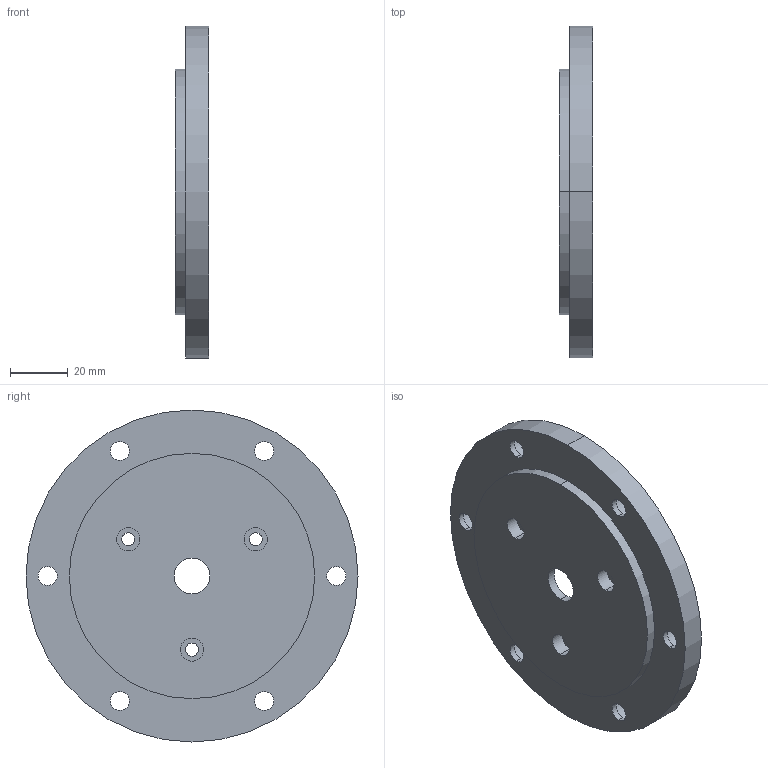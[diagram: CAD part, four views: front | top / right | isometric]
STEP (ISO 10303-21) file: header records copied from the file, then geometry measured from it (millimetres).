
FILE_DESCRIPTION (( 'STEP AP214' ), '1' );
FILE_NAME ('8.0010.2170.0000.STEP', '2014-11-06T12:47:57', ( 'admin' ), ( 'Microsoft' ), 'SwSTEP 2.0', 'SolidWorks 2013', '' );
FILE_SCHEMA (( 'AUTOMOTIVE_DESIGN' ));
Length unit declared in the file: millimetre
Products named in the file (1): 8.0010.2170.0000
Bounding box: 11.5 x 115 x 115 mm (x, y, z)
Volume: 85789.7 mm3; surface area: 27337 mm2
Topology: 1 solids, 1 shells, 60 faces, 138 edges, 92 vertices
Faces by surface type: cylinder 44, plane 14, cone 2
Entity records: 1828 total; most frequent: DIRECTION 352, CARTESIAN_POINT 291, ORIENTED_EDGE 276, AXIS2_PLACEMENT_3D 153, EDGE_CURVE 138, CIRCLE 92, EDGE_LOOP 92, VERTEX_POINT 92
